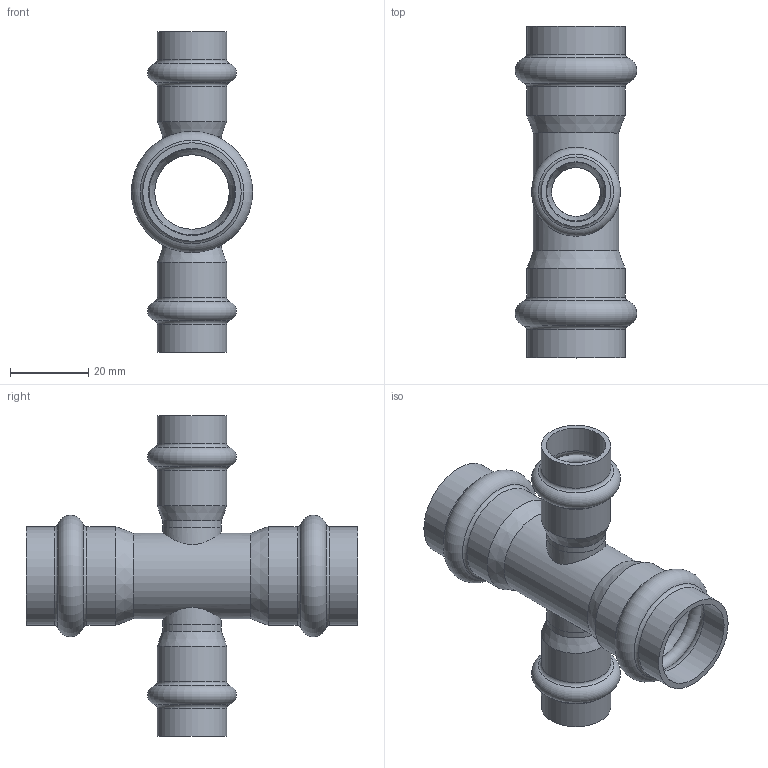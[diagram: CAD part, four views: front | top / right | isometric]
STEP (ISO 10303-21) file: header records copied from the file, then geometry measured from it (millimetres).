
FILE_DESCRIPTION(('STEP AP203'), '1');
FILE_NAME('ÂÐ.302669.008.000 ÑÁ - VTi.941.I.002215 Êðåñò. Äó22-15', '2024-02-29T12:42:41', ('User'), ('Vesta'), 'C3D Converter', 'C3D Toolkit', '');
FILE_SCHEMA(('CONFIG_CONTROL_DESIGN'));
Length unit declared in the file: millimetre
Products named in the file (5): ВР.302669.008.000 СБ; ВР.735542.007-01; ВР.735542.001
Assembly tree (7 placements, depth 2):
  ВР.302669.008.000 СБ
    ВР.735542.007-01
    ВР.735542.001  x2
    (unnamed)  x2
    (unnamed)  x2
Bounding box: 31.1 x 85 x 82 mm (x, y, z)
Volume: 15730 mm3; surface area: 22997.5 mm2
Topology: 7 solids, 7 shells, 70 faces, 138 edges, 74 vertices
Faces by surface type: torus 28, cylinder 26, plane 8, cone 8
Full cylindrical faces by diameter (mm): 12.5 x4, 15 x4, 15.3 x4, 17.8 x4, 19.1 x1, 22 x1, 22.3 x4, 25.2 x4
Entity records: 2756 total; most frequent: CARTESIAN_POINT 1086, DIRECTION 216, AXIS2_PLACEMENT_3D 108, ORIENTED_EDGE 108, EDGE_LOOP 104, FACE_OUTER_BOUND 86, COLOUR_RGB 56, FILL_AREA_STYLE_COLOUR 56
